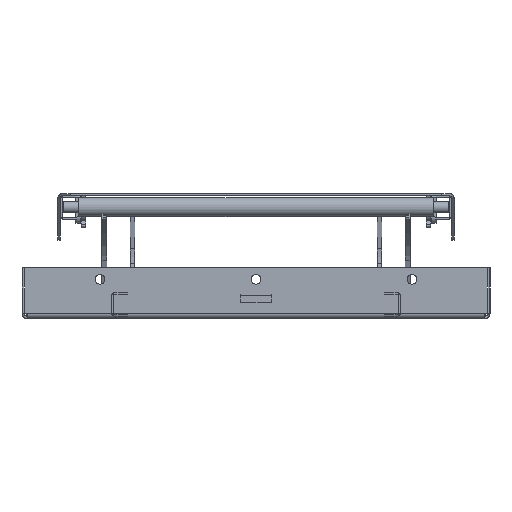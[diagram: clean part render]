
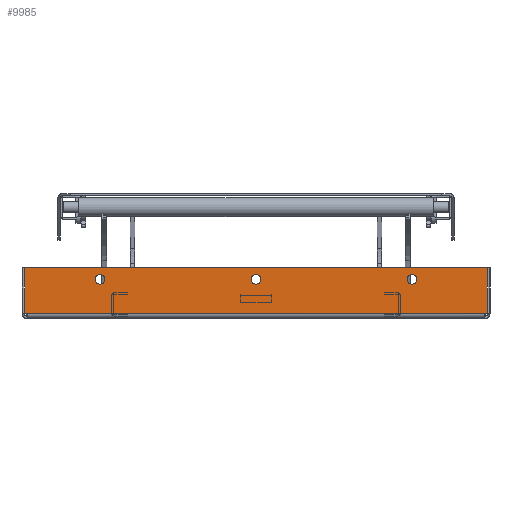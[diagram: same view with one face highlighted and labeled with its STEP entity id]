
A CAD part, left-side view. The second image highlights one B-rep face of the part: STEP entity #9985.
In plain terms, the highlighted planar face has unit normal (-1, 0, 0) as drawn and (1, 0, 0) by its records, which use the part's own axes.
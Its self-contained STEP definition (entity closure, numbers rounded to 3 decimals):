
#355=FACE_BOUND('',#1868,.T.);
#356=FACE_BOUND('',#1869,.T.);
#357=FACE_BOUND('',#1870,.T.);
#694=PLANE('',#10964);
#1180=FACE_OUTER_BOUND('',#1867,.T.);
#1867=EDGE_LOOP('',(#8657,#8658,#8659,#8660,#8661,#8662));
#1868=EDGE_LOOP('',(#8663));
#1869=EDGE_LOOP('',(#8664));
#1870=EDGE_LOOP('',(#8665));
#2837=LINE('',#16834,#3823);
#2838=LINE('',#16838,#3824);
#2839=LINE('',#16840,#3825);
#2840=LINE('',#16841,#3826);
#3823=VECTOR('',#13421,10.);
#3824=VECTOR('',#13424,10.);
#3825=VECTOR('',#13425,10.);
#3826=VECTOR('',#13426,10.);
#4254=CIRCLE('',#10819,6.25);
#4258=CIRCLE('',#10825,6.25);
#4262=CIRCLE('',#10831,6.25);
#4268=CIRCLE('',#10962,4.);
#4270=CIRCLE('',#10965,4.);
#4872=VERTEX_POINT('',#16026);
#4876=VERTEX_POINT('',#16036);
#4880=VERTEX_POINT('',#16046);
#5099=VERTEX_POINT('',#16825);
#5100=VERTEX_POINT('',#16827);
#5102=VERTEX_POINT('',#16833);
#5103=VERTEX_POINT('',#16835);
#5104=VERTEX_POINT('',#16837);
#5105=VERTEX_POINT('',#16839);
#6032=EDGE_CURVE('',#4872,#4872,#4254,.T.);
#6036=EDGE_CURVE('',#4876,#4876,#4258,.T.);
#6040=EDGE_CURVE('',#4880,#4880,#4262,.T.);
#6366=EDGE_CURVE('',#5100,#5099,#4268,.T.);
#6369=EDGE_CURVE('',#5099,#5102,#2837,.T.);
#6370=EDGE_CURVE('',#5102,#5103,#4270,.T.);
#6371=EDGE_CURVE('',#5104,#5103,#2838,.T.);
#6372=EDGE_CURVE('',#5105,#5104,#2839,.T.);
#6373=EDGE_CURVE('',#5100,#5105,#2840,.T.);
#8657=ORIENTED_EDGE('',*,*,#6369,.T.);
#8658=ORIENTED_EDGE('',*,*,#6370,.T.);
#8659=ORIENTED_EDGE('',*,*,#6371,.F.);
#8660=ORIENTED_EDGE('',*,*,#6372,.F.);
#8661=ORIENTED_EDGE('',*,*,#6373,.F.);
#8662=ORIENTED_EDGE('',*,*,#6366,.T.);
#8663=ORIENTED_EDGE('',*,*,#6032,.T.);
#8664=ORIENTED_EDGE('',*,*,#6036,.T.);
#8665=ORIENTED_EDGE('',*,*,#6040,.T.);
#9985=ADVANCED_FACE('',(#1180,#355,#356,#357),#694,.F.);
#10819=AXIS2_PLACEMENT_3D('',#16027,#12814,#12815);
#10825=AXIS2_PLACEMENT_3D('',#16037,#12826,#12827);
#10831=AXIS2_PLACEMENT_3D('',#16047,#12838,#12839);
#10962=AXIS2_PLACEMENT_3D('',#16828,#13414,#13415);
#10964=AXIS2_PLACEMENT_3D('',#16832,#13419,#13420);
#10965=AXIS2_PLACEMENT_3D('',#16836,#13422,#13423);
#12814=DIRECTION('center_axis',(-1.,0.,0.));
#12815=DIRECTION('ref_axis',(0.,0.,
1.));
#12826=DIRECTION('center_axis',(-1.,0.,0.));
#12827=DIRECTION('ref_axis',(0.,0.,
1.));
#12838=DIRECTION('center_axis',(-1.,0.,0.));
#12839=DIRECTION('ref_axis',(0.,0.,
1.));
#13414=DIRECTION('center_axis',(-1.,0.,0.));
#13415=DIRECTION('ref_axis',(0.,-1.,0.));
#13419=DIRECTION('center_axis',(-1.,0.,0.));
#13420=DIRECTION('ref_axis',(0.,0.,1.));
#13421=DIRECTION('',(0.,0.,-1.));
#13422=DIRECTION('center_axis',(-1.,0.,0.));
#13423=DIRECTION('ref_axis',(0.,-1.,0.));
#13424=DIRECTION('',(0.,-1.,0.));
#13425=DIRECTION('',(0.,0.,-1.));
#13426=DIRECTION('',(0.,1.,0.));
#16026=CARTESIAN_POINT('',(450.,50.,193.75));
#16027=CARTESIAN_POINT('Origin',(450.,50.,200.));
#16036=CARTESIAN_POINT('',(450.,50.,-206.25));
#16037=CARTESIAN_POINT('Origin',(450.,50.,-200.));
#16046=CARTESIAN_POINT('',(450.,50.,-6.25));
#16047=CARTESIAN_POINT('Origin',(450.,50.,0.));
#16825=CARTESIAN_POINT('',(450.,6.,294.77));
#16827=CARTESIAN_POINT('',(450.,6.411,296.646));
#16828=CARTESIAN_POINT('Origin',(450.,2.412,296.538));
#16832=CARTESIAN_POINT('Origin',(450.,32.549,0.));
#16833=CARTESIAN_POINT('',(450.,6.,-294.77));
#16834=CARTESIAN_POINT('',(450.,6.,0.));
#16835=CARTESIAN_POINT('',(450.,6.411,-296.646));
#16836=CARTESIAN_POINT('Origin',(450.,2.412,-296.538));
#16837=CARTESIAN_POINT('',(450.,65.,-296.646));
#16838=CARTESIAN_POINT('',(450.,6.,-296.646));
#16839=CARTESIAN_POINT('',(450.,65.,296.646));
#16840=CARTESIAN_POINT('',(450.,65.,296.646));
#16841=CARTESIAN_POINT('',(450.,6.,296.646));
